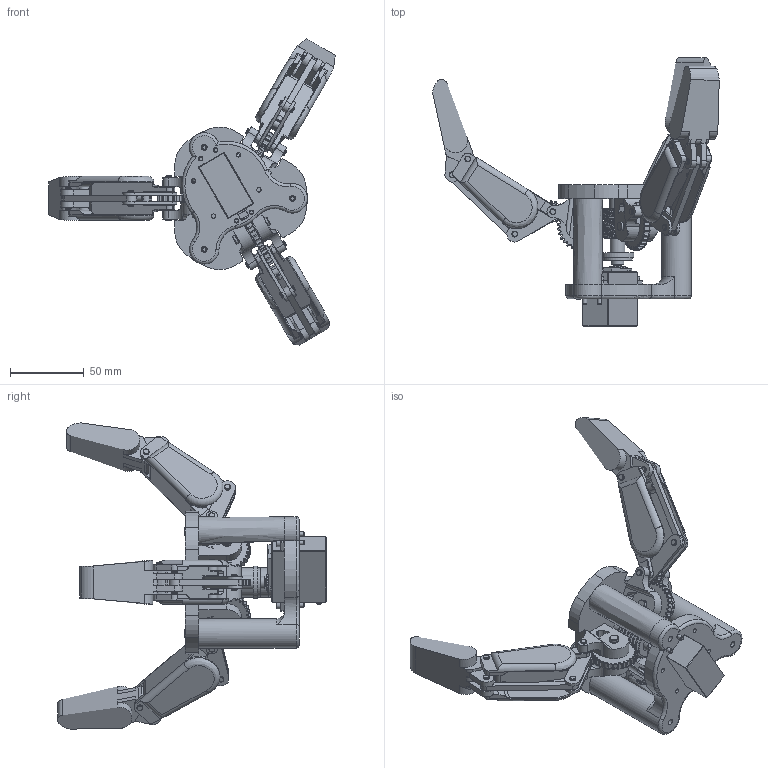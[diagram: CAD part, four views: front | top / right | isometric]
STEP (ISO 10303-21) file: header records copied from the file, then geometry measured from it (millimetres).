
FILE_DESCRIPTION(/* description */ (''),/* implementation_level */ '2;1');
FILE_NAME(/* name */ 'C:\Users\i911900\Desktop\pinza_vite_senza_fine_ingranaggi2\pinza_vite_senza_fine_ingranaggi\step\Gripper_Assembly_2.stp',/* time_stamp */ '2022-02-10T08:53:36+01:00',/* author */ ('i911900'),/* organization */ (''),/* preprocessor_version */ 'ST-DEVELOPER v18.1',/* originating_system */ 'Autodesk Inventor 2022',/* authorisation */ '');
FILE_SCHEMA (('AUTOMOTIVE_DESIGN { 1 0 10303 214 3 1 1 }'));
Products named in the file (19): Gripper_Assembly3; palm; link_1; phalanx_1; phalanx_2; shaft_1; gear_30x4; worm; shaft_2; shaft_3; shaft_4; link_2_1; link_2_2; link_2_3; shaft_5; MG995; Acople circular; fermo_995; AS 1420 - 1973 - M3 x 16
Assembly tree (42 placements, depth 2):
  Gripper_Assembly3
    link_1  x3
    palm
    shaft_1  x3
    phalanx_1  x3
    phalanx_2  x3
    gear_30x4  x3
    worm
    shaft_2  x3
    shaft_3  x3
    shaft_4  x3
    shaft_5  x3
    link_2_1
    link_2_2
    link_2_3
    MG995
    Acople circular
    fermo_995
    AS 1420 - 1973 - M3 x 16  x7
Bounding box: 194.7 x 182.73 x 208.17 mm (x, y, z)
Volume: 351551.9 mm3; surface area: 142088.6 mm2
Topology: 43 solids, 50 shells, 2842 faces, 7637 edges, 4992 vertices
Faces by surface type: cylinder 1115, plane 978, bspline 382, torus 314, cone 53
Full cylindrical faces by diameter (mm): 1.82 x3, 2.5 x8, 2.629 x15, 2.8 x1, 2.9 x16, 2.933 x2, 3 x17, 3.133 x2, 3.8 x24, 4 x78, 5.5 x7, 5.7 x6, 6 x15, 8 x3, 8.5 x1, 10 x1, 10.84 x1, 11 x1, 12 x6, 12.997 x3, 13.17 x1, 14.9 x1, 18 x6, 19.6 x1, 20 x2, 22 x1, 22.32 x6, 30 x3
Entity records: 84287 total; most frequent: CARTESIAN_POINT 45790, ORIENTED_EDGE 8150, DIRECTION 7339, EDGE_CURVE 4077, VERTEX_POINT 2682, AXIS2_PLACEMENT_3D 2603, LINE 2133, VECTOR 2133
